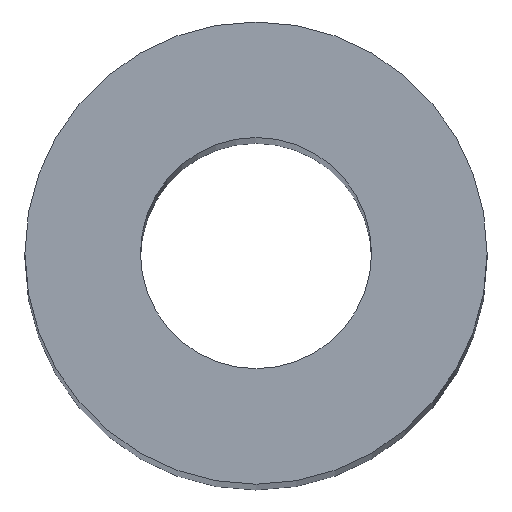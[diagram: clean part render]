
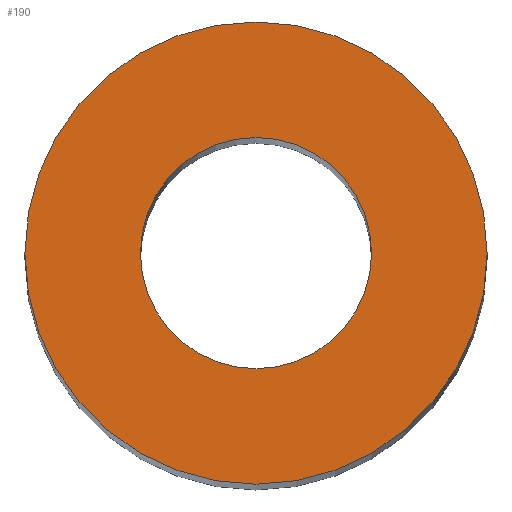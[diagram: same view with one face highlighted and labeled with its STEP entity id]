
A CAD part, top view. The second image highlights one B-rep face of the part: STEP entity #190.
In plain terms, the highlighted planar face has unit normal (0, 0, 1).
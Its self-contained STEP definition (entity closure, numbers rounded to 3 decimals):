
#3 = CIRCLE ( 'NONE', #180, 8. ) ;
#5 = CIRCLE ( 'NONE', #186, 4. ) ;
#7 = DIRECTION ( 'NONE',  ( 0., 0., 1. ) ) ;
#9 = DIRECTION ( 'NONE',  ( 1., 0., 0. ) ) ;
#11 = CARTESIAN_POINT ( 'NONE',  ( 0., 0., 115. ) ) ;
#18 = DIRECTION ( 'NONE',  ( 0., 0., 1. ) ) ;
#24 = DIRECTION ( 'NONE',  ( 0., 0., 1. ) ) ;
#26 = CARTESIAN_POINT ( 'NONE',  ( 8., 0., 115. ) ) ;
#30 = EDGE_CURVE ( 'NONE', #125, #181, #148, .T. ) ;
#36 = PLANE ( 'NONE',  #63 ) ;
#37 = CARTESIAN_POINT ( 'NONE',  ( 0., 0., 115. ) ) ;
#38 = VERTEX_POINT ( 'NONE', #178 ) ;
#48 = AXIS2_PLACEMENT_3D ( 'NONE', #37, #111, #144 ) ;
#63 = AXIS2_PLACEMENT_3D ( 'NONE', #160, #18, #92 ) ;
#78 = EDGE_CURVE ( 'NONE', #109, #38, #116, .T. ) ;
#86 = EDGE_LOOP ( 'NONE', ( #130, #156 ) ) ;
#91 = FACE_BOUND ( 'NONE', #164, .T. ) ;
#92 = DIRECTION ( 'NONE',  ( 1., 0., 0. ) ) ;
#95 = CARTESIAN_POINT ( 'NONE',  ( -4., 0., 115. ) ) ;
#97 = DIRECTION ( 'NONE',  ( 0., 0., 1. ) ) ;
#109 = VERTEX_POINT ( 'NONE', #26 ) ;
#111 = DIRECTION ( 'NONE',  ( 0., 0., 1. ) ) ;
#115 = AXIS2_PLACEMENT_3D ( 'NONE', #205, #97, #9 ) ;
#116 = CIRCLE ( 'NONE', #115, 8. ) ;
#124 = ORIENTED_EDGE ( 'NONE', *, *, #30, .F. ) ;
#125 = VERTEX_POINT ( 'NONE', #154 ) ;
#127 = DIRECTION ( 'NONE',  ( 1., 0., 0. ) ) ;
#130 = ORIENTED_EDGE ( 'NONE', *, *, #131, .T. ) ;
#131 = EDGE_CURVE ( 'NONE', #38, #109, #3, .T. ) ;
#135 = FACE_OUTER_BOUND ( 'NONE', #86, .T. ) ;
#144 = DIRECTION ( 'NONE',  ( 1., 0., 0. ) ) ;
#148 = CIRCLE ( 'NONE', #48, 4. ) ;
#149 = EDGE_CURVE ( 'NONE', #181, #125, #5, .T. ) ;
#154 = CARTESIAN_POINT ( 'NONE',  ( 4., 0., 115. ) ) ;
#156 = ORIENTED_EDGE ( 'NONE', *, *, #78, .T. ) ;
#160 = CARTESIAN_POINT ( 'NONE',  ( 0., 0., 115. ) ) ;
#164 = EDGE_LOOP ( 'NONE', ( #196, #124 ) ) ;
#173 = DIRECTION ( 'NONE',  ( 1., 0., 0. ) ) ;
#178 = CARTESIAN_POINT ( 'NONE',  ( -8., 0., 115. ) ) ;
#180 = AXIS2_PLACEMENT_3D ( 'NONE', #11, #24, #127 ) ;
#181 = VERTEX_POINT ( 'NONE', #95 ) ;
#186 = AXIS2_PLACEMENT_3D ( 'NONE', #192, #7, #173 ) ;
#190 = ADVANCED_FACE ( 'NONE', ( #135, #91 ), #36, .T. ) ;
#192 = CARTESIAN_POINT ( 'NONE',  ( 0., 0., 115. ) ) ;
#196 = ORIENTED_EDGE ( 'NONE', *, *, #149, .F. ) ;
#205 = CARTESIAN_POINT ( 'NONE',  ( 0., 0., 115. ) ) ;
